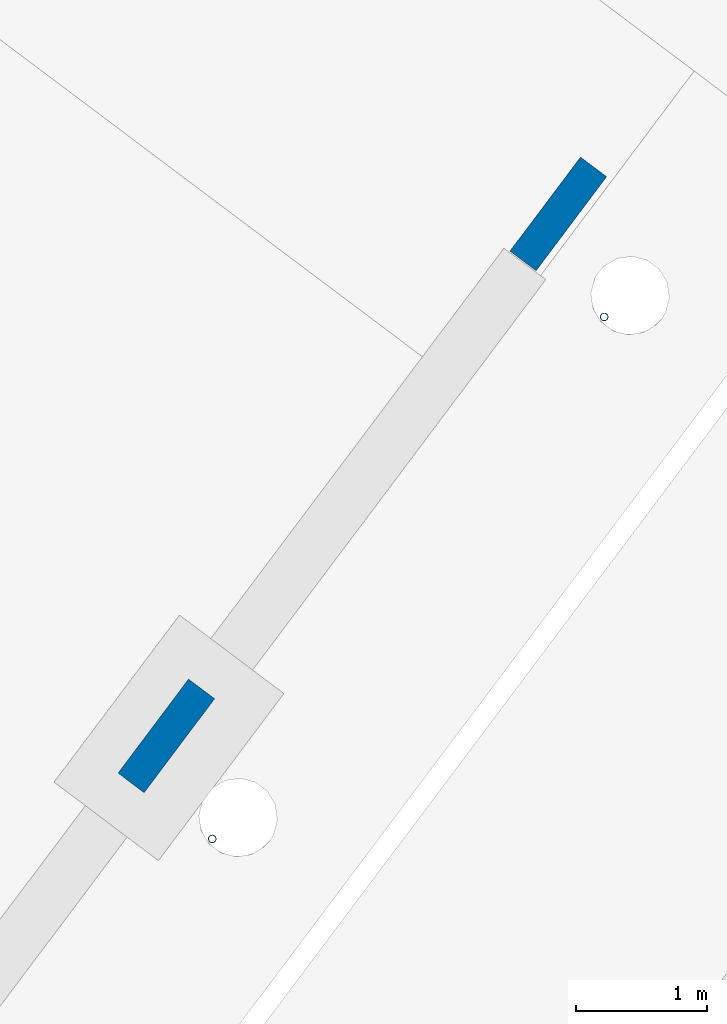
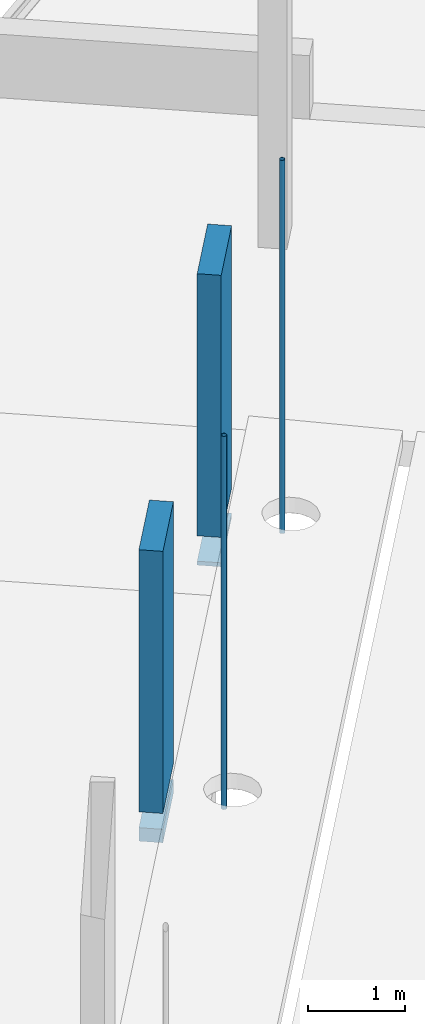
# One storey, part 8 of 24: 4 columns.
"""IFC2X3 building model written with IfcOpenShell, lengths in metres."""

from ifc_helpers import new_model, entity, si_unit, converted_unit, derived_unit, direction, frame, frame_2d, origin, origin_2d_with_axis, place, context, subcontext, project, spatial, rectangle, hollow_circle, extrude, source, transform, mapped, material, type_object, type_shapes, element, save


model = new_model("IFC2X3")

# Units and contexts
model_context = context("Model", 3, precision=1e-05, world=origin(), true_north=direction((6.123031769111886e-17, 1.0)))
body_context = subcontext(model_context, "Body", "Model", "MODEL_VIEW")
ifc_project = project(units=[si_unit("LENGTHUNIT", "METRE"), si_unit("AREAUNIT", "SQUARE_METRE"), si_unit("VOLUMEUNIT", "CUBIC_METRE"), converted_unit("PLANEANGLEUNIT", "DEGREE", entity("IfcRatioMeasure", 0.017453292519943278), si_unit("PLANEANGLEUNIT", "RADIAN"), dimensions=[0, 0, 0, 0, 0, 0, 0]), si_unit("MASSUNIT", "GRAM", prefix="KILO"), derived_unit("MASSDENSITYUNIT", [(si_unit("MASSUNIT", "GRAM", prefix="KILO"), 1), (si_unit("LENGTHUNIT", "METRE"), -3)]), derived_unit("IONCONCENTRATIONUNIT", [(si_unit("MASSUNIT", "GRAM", prefix="KILO"), 1), (si_unit("LENGTHUNIT", "METRE"), -3)]), derived_unit("MOMENTOFINERTIAUNIT", [(si_unit("LENGTHUNIT", "METRE"), 4)]), si_unit("TIMEUNIT", "SECOND"), si_unit("FREQUENCYUNIT", "HERTZ"), si_unit("THERMODYNAMICTEMPERATUREUNIT", "DEGREE_CELSIUS"), derived_unit("THERMALTRANSMITTANCEUNIT", [(si_unit("MASSUNIT", "GRAM", prefix="KILO"), 1), (si_unit("THERMODYNAMICTEMPERATUREUNIT", "KELVIN"), -1), (si_unit("TIMEUNIT", "SECOND"), -3)]), derived_unit("THERMALCONDUCTANCEUNIT", [(si_unit("MASSUNIT", "GRAM", prefix="KILO"), 1), (si_unit("THERMODYNAMICTEMPERATUREUNIT", "KELVIN"), -1), (si_unit("TIMEUNIT", "SECOND"), -3), (si_unit("LENGTHUNIT", "METRE"), 1)]), derived_unit("VOLUMETRICFLOWRATEUNIT", [(si_unit("LENGTHUNIT", "METRE"), 3), (si_unit("TIMEUNIT", "SECOND"), -1)]), derived_unit("MASSFLOWRATEUNIT", [(si_unit("MASSUNIT", "GRAM", prefix="KILO"), 1), (si_unit("TIMEUNIT", "SECOND"), -1)]), derived_unit("ROTATIONALFREQUENCYUNIT", [(si_unit("TIMEUNIT", "SECOND"), -1)]), si_unit("ELECTRICCURRENTUNIT", "AMPERE"), si_unit("ELECTRICVOLTAGEUNIT", "VOLT"), si_unit("POWERUNIT", "WATT"), si_unit("FORCEUNIT", "NEWTON", prefix="KILO"), si_unit("ILLUMINANCEUNIT", "LUX"), si_unit("LUMINOUSFLUXUNIT", "LUMEN"), si_unit("LUMINOUSINTENSITYUNIT", "CANDELA"), derived_unit("USERDEFINED", [(si_unit("MASSUNIT", "GRAM", prefix="KILO"), -1), (si_unit("LENGTHUNIT", "METRE"), -2), (si_unit("TIMEUNIT", "SECOND"), 3), (si_unit("LUMINOUSFLUXUNIT", "LUMEN"), 1)]), derived_unit("USERDEFINED", [(si_unit("MASSUNIT", "GRAM", prefix="KILO"), 1), (si_unit("TIMEUNIT", "SECOND"), -3), (si_unit("LENGTHUNIT", "METRE"), 3), (si_unit("ELECTRICCURRENTUNIT", "AMPERE"), -2)]), derived_unit("SOUNDPOWERUNIT", [(si_unit("MASSUNIT", "GRAM", prefix="KILO"), 1), (si_unit("TIMEUNIT", "SECOND"), -3), (si_unit("LENGTHUNIT", "METRE"), 2)]), derived_unit("SOUNDPRESSUREUNIT", [(si_unit("MASSUNIT", "GRAM", prefix="KILO"), 1), (si_unit("LENGTHUNIT", "METRE"), -1), (si_unit("TIMEUNIT", "SECOND"), -2)]), derived_unit("LINEARVELOCITYUNIT", [(si_unit("LENGTHUNIT", "METRE"), 1), (si_unit("TIMEUNIT", "SECOND"), -1)]), si_unit("PRESSUREUNIT", "PASCAL"), derived_unit("USERDEFINED", [(si_unit("MASSUNIT", "GRAM", prefix="KILO"), 1), (si_unit("LENGTHUNIT", "METRE"), -2), (si_unit("TIMEUNIT", "SECOND"), -2)]), derived_unit("LINEARFORCEUNIT", [(si_unit("MASSUNIT", "GRAM", prefix="KILO"), 1), (si_unit("TIMEUNIT", "SECOND"), -2)]), derived_unit("PLANARFORCEUNIT", [(si_unit("MASSUNIT", "GRAM", prefix="KILO"), 1), (si_unit("LENGTHUNIT", "METRE"), -1), (si_unit("TIMEUNIT", "SECOND"), -2)]), derived_unit("SPECIFICHEATCAPACITYUNIT", [(si_unit("THERMODYNAMICTEMPERATUREUNIT", "KELVIN"), -1), (si_unit("LENGTHUNIT", "METRE"), 2), (si_unit("TIMEUNIT", "SECOND"), -2)]), derived_unit("HEATINGVALUEUNIT", [(si_unit("LENGTHUNIT", "METRE"), 2), (si_unit("TIMEUNIT", "SECOND"), -2)]), derived_unit("VAPORPERMEABILITYUNIT", [(si_unit("LENGTHUNIT", "METRE"), -1), (si_unit("TIMEUNIT", "SECOND"), 1)]), derived_unit("DYNAMICVISCOSITYUNIT", [(si_unit("MASSUNIT", "GRAM", prefix="KILO"), 1), (si_unit("TIMEUNIT", "SECOND"), -1), (si_unit("LENGTHUNIT", "METRE"), -1)]), derived_unit("THERMALEXPANSIONCOEFFICIENTUNIT", [(si_unit("THERMODYNAMICTEMPERATUREUNIT", "KELVIN"), -1)]), derived_unit("MODULUSOFELASTICITYUNIT", [(si_unit("MASSUNIT", "GRAM", prefix="KILO"), 1), (si_unit("LENGTHUNIT", "METRE"), -1), (si_unit("TIMEUNIT", "SECOND"), -2)]), derived_unit("ISOTHERMALMOISTURECAPACITYUNIT", [(si_unit("LENGTHUNIT", "METRE"), 3), (si_unit("MASSUNIT", "GRAM", prefix="KILO"), -1)]), derived_unit("MOISTUREDIFFUSIVITYUNIT", [(si_unit("TIMEUNIT", "SECOND"), -1), (si_unit("LENGTHUNIT", "METRE"), 2)])], contexts=[model_context])

# Site, building, storey
site_placement = place(None, origin())
site = spatial("IfcSite", under=ifc_project, at=site_placement, Name="Default", CompositionType="ELEMENT")
building_placement = place(site_placement, frame((0.0, 0.0, 235.0), z_axis=(0.0, 0.0, 1.0), x_axis=(-0.7996477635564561, 0.6004693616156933, 0.0)))
building = spatial("IfcBuilding", under=site, at=building_placement, CompositionType="ELEMENT")
storey_placement = place(building_placement, origin())
storey = spatial("IfcBuildingStorey", under=building, at=storey_placement, Name="P0- Escola", CompositionType="ELEMENT", Elevation=0.0)

# Columns
ifc_material_1 = material(Name="_Formigó- T1- STR")
column_type_1 = type_object("IfcColumnType", Name="STR- P- Formigó- Rectangular- T1:25x90cm", PredefinedType="COLUMN", material=ifc_material_1)
shared_shape_1 = source(origin(), body_context, "Body", "SweptSolid", [
    extrude(rectangle(XDim=0.899999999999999, YDim=0.25000000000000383, at=origin_2d_with_axis()), frame((66.62014768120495, -29.91519175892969, -0.57), z_axis=(0.0, 0.0, 1.0), x_axis=(0.0, -1.0, 0.0)), (0.0, 0.0, 1.0), 0.16999999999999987),
    extrude(rectangle(XDim=0.899999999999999, YDim=0.25000000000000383, at=origin_2d_with_axis()), frame((66.62014768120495, -29.91519175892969, -0.2), z_axis=(0.0, 0.0, 1.0), x_axis=(0.0, -1.0, 0.0)), (0.0, 0.0, 1.0), 3.3000000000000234),
])
type_shapes(column_type_1, [shared_shape_1])
column_1_placement = place(storey_placement, origin())
element("IfcColumn", 1, at=column_1_placement, inside=storey, type_object=column_type_1, material=ifc_material_1, Name="STR- P- Formigó- Rectangular- T1:25x90cm", ObjectType="STR- P- Formigó- Rectangular- T1:25x90cm", context=body_context, shape_type="MappedRepresentation", body=[
    mapped(shared_shape_1, transform((0.0, 0.0, 0.0), scale=1.0)),
])
column_type_2 = type_object("IfcColumnType", Name="STR- P- Formigó- Rectangular- T1:25x90cm", PredefinedType="COLUMN", material=ifc_material_1)
shared_shape_2 = source(origin(), body_context, "Body", "SweptSolid", [
    extrude(rectangle(XDim=0.899999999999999, YDim=0.25000000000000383, at=frame_2d((0.0, -8.666678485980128e-15), x_axis=(1.0, 0.0))), frame((66.62014768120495, -34.91519175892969, -0.57), z_axis=(0.0, 0.0, 1.0), x_axis=(0.0, -1.0, 0.0)), (0.0, 0.0, 1.0), 0.05000000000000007),
    extrude(rectangle(XDim=0.899999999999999, YDim=0.25000000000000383, at=frame_2d((0.0, -8.666678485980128e-15), x_axis=(1.0, 0.0))), frame((66.62014768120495, -34.91519175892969, -0.2), z_axis=(0.0, 0.0, 1.0), x_axis=(0.0, -1.0, 0.0)), (0.0, 0.0, 1.0), 3.3000000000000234),
])
type_shapes(column_type_2, [shared_shape_2])
column_2_placement = place(storey_placement, origin())
element("IfcColumn", 2, at=column_2_placement, inside=storey, type_object=column_type_2, material=ifc_material_1, Name="STR- P- Formigó- Rectangular- T1:25x90cm", ObjectType="STR- P- Formigó- Rectangular- T1:25x90cm", context=body_context, shape_type="MappedRepresentation", body=[
    mapped(shared_shape_2, transform((0.0, 0.0, 0.0), scale=1.0)),
])
ifc_material_2 = material(Name="Metal - Acero - 345 MPa")
column_type_3 = type_object("IfcColumnType", Name="STR- P- Acer- CHS- Circular- T1:60.3 x 3CHS", PredefinedType="COLUMN", material=ifc_material_2)
shared_shape_3 = source(origin(), body_context, "Body", "SweptSolid", [
    extrude(hollow_circle(Radius=0.03014999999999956, WallThickness=0.0029999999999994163, at=frame_2d((-4.81877898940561e-19, 4.854464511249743e-17), x_axis=(1.0, 0.0))), frame((0.0, 0.0, -0.1)), (0.0, 0.0, 1.0), 4.700000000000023),
])
type_shapes(column_type_3, [shared_shape_3])
for number, where, name in (
    (3, (65.86514768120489, -29.495191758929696, 0.0), "STR- P- Acer- CHS- Circular- T1:60.3 x 3CHS"),
    (4, (65.86514768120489, -34.49519175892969, 0.0), "STR- P- Acer- CHS- Circular- T1:60.3 x 3CHS"),
):
    element("IfcColumn", number, at=place(storey_placement, frame(where)), inside=storey, type_object=column_type_3, material=ifc_material_2, Name=name, ObjectType="STR- P- Acer- CHS- Circular- T1:60.3 x 3CHS", context=body_context, shape_type="MappedRepresentation", body=[
        mapped(shared_shape_3, transform((0.0, 0.0, 0.0), scale=1.0)),
    ])

save(model, "model.ifc")
